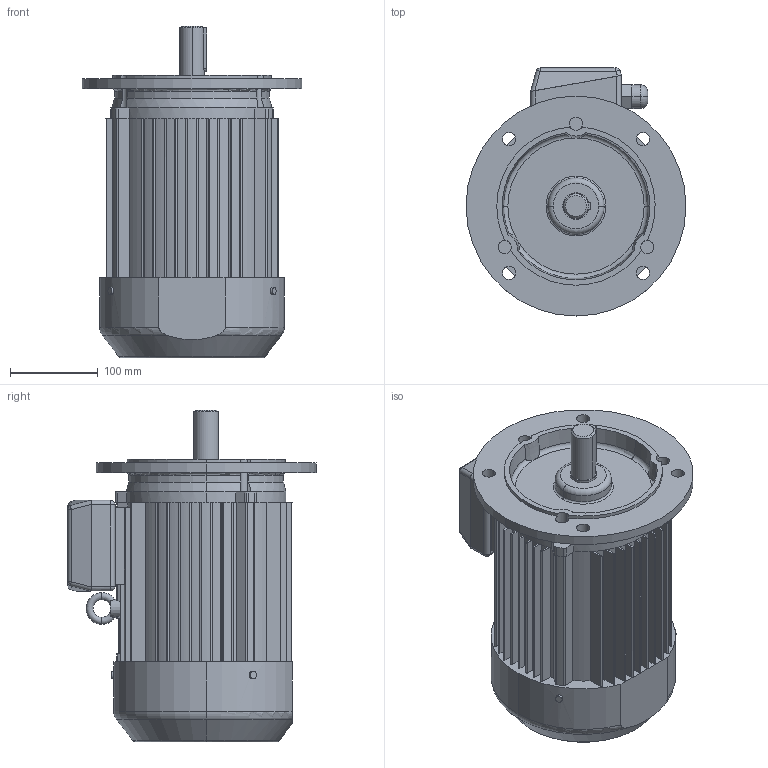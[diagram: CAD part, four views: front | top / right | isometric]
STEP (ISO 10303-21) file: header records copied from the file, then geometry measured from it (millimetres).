
FILE_DESCRIPTION (( 'STEP AP203' ), '1' );
FILE_NAME ('3SIEK100L2,6.STEP', '2016-02-08T12:11:24', ( 'Indukta' ), ( 'Celma Indukta S.A.' ), 'SwSTEP 2.0', 'SolidWorks 2003064', '' );
FILE_SCHEMA (( 'CONFIG_CONTROL_DESIGN' ));
Length unit declared in the file: millimetre
Products named in the file (1): 3SIEK100L2,6
Bounding box: 250 x 282 x 377 mm (x, y, z)
Volume: 9530385 mm3; surface area: 494618.9 mm2
Topology: 1 solids, 1 shells, 579 faces, 1569 edges, 998 vertices
Faces by surface type: plane 279, cylinder 173, bspline 78, torus 23, cone 18, sphere 8
Entity records: 24849 total; most frequent: CARTESIAN_POINT 10477, ORIENTED_EDGE 3122, DIRECTION 2827, EDGE_CURVE 1561, VERTEX_POINT 998, AXIS2_PLACEMENT_3D 984, LINE 859, VECTOR 859
